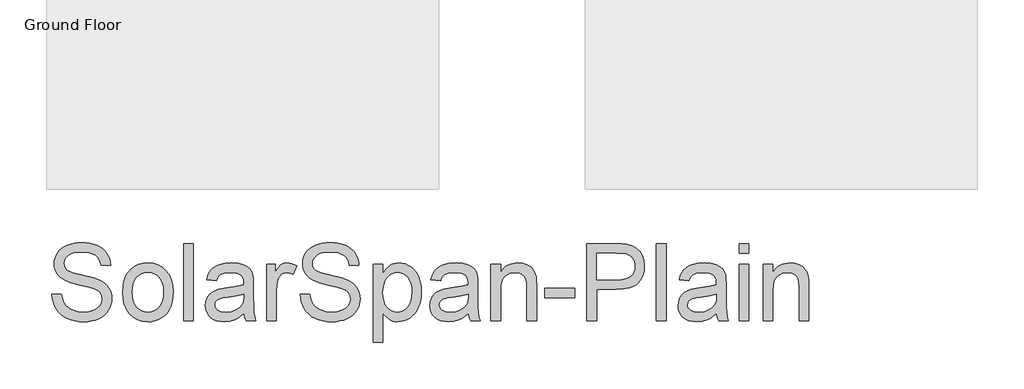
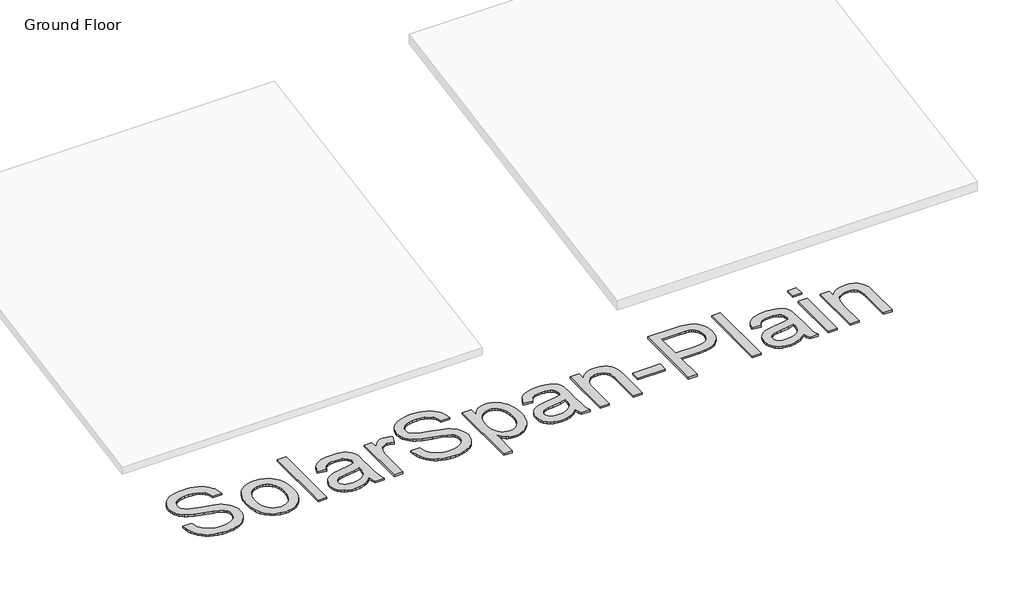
# One storey, part 2 of 2: 1 proxy.
"""IFC4 building model written with IfcOpenShell, lengths in millimetres."""

from ifc_helpers import new_model, si_unit, origin, origin_with_axes, place, context, project, spatial, polyline, outline, extrude, element, save

model = new_model("IFC4")

# Units and contexts
model_context = context("Model", 3, world=origin())
ifc_project = project(units=[si_unit("LENGTHUNIT", "METRE", prefix="MILLI")], contexts=[model_context])

# Site, building, storey
site = spatial("IfcSite", under=ifc_project)
building = spatial("IfcBuilding", under=site)
storey = spatial("IfcBuildingStorey", under=building, Name="Ground Floor", Elevation=0.0)

# Proxy
placement = place(None, origin())
element("IfcBuildingElementProxy", 1, Name="600mm Arial", ObjectType="600mm Arial", at=placement, inside=storey, context=model_context, shape_type="SweptSolid", body=[
    extrude(outline(polyline([(-14694.0272476, 2196.3788361), (-14596.0878536, 2196.3788361), (-14584.8496907, 2142.0291675), (-14575.823294, 2118.8534454), (-14564.5253536, 2098.3437982), (-14550.3820061, 2080.0877612), (-14532.8193877, 2063.6728701), (-14511.8374985, 2049.0991249), (-14487.4363385, 2036.3665254), (-14460.5125695, 2026.0310022), (-14431.9628536, 2018.6484857), (-14369.9855809, 2012.7424724), (-14315.4207135, 2017.2138266), (-14267.6465657, 2030.6278891), (-14228.9346813, 2051.8608436), (-14213.8289166, 2064.9879743), (-14201.5566036, 2079.7888739), (-14185.2732229, 2111.8535046), (-14179.8454294, 2145.4962603), (-14183.9102968, 2178.2782205), (-14196.1048991, 2206.6127376), (-14206.3627116, 2219.1839379), (-14220.8766794, 2230.7867432), (-14262.6730809, 2251.0871694), (-14314.3925411, 2266.4619326), (-14405.2781945, 2288.4839497), (-14498.8897002, 2313.231819), (-14558.7867172, 2336.7841391), (-14584.9393569, 2352.3860567), (-14607.5412154, 2369.7334762), (-14626.5922925, 2388.8263976), (-14642.0925885, 2409.6648209), (-14654.1018806, 2432.0335472), (-14662.6799464, 2455.7173777), (-14667.8267859, 2480.7163124), (-14669.5423991, 2507.0303512), (-14667.4202992, 2536.195775), (-14661.0539994, 2564.3928039), (-14650.4434999, 2591.6214379), (-14635.5888006, 2617.881677), (-14616.6572783, 2642.1035046), (-14593.8163101, 2663.2169042), (-14567.0658958, 2681.2218758), (-14536.4060354, 2696.1184194), (-14502.8708792, 2707.7929577), (-14467.4945771, 2716.1319137), (-14430.2771292, 2721.1352873), (-14391.2185354, 2722.8030785), (-14348.6091604, 2721.0575766), (-14308.5821718, 2715.8210709), (-14271.1375695, 2707.0935614), (-14236.2753536, 2694.8750482), (-14204.6411207, 2679.2731306), (-14176.8804672, 2660.395408), (-14152.9933934, 2638.2418806), (-14132.9798991, 2612.8125482), (-14116.9954057, 2584.8486514), (-14105.1953347, 2555.0914307), (-14097.579686, 2523.5408862), (-14094.1484597, 2490.1970179), (-14192.0878536, 2490.1970179), (-14198.6394635, 2521.4486751), (-14210.0689142, 2548.6354648), (-14226.3762059, 2571.7573872), (-14247.5613385, 2590.8144421), (-14274.0188432, 2605.7109857), (-14306.1432513, 2616.3513739), (-14343.9345629, 2622.7356069), (-14387.3927779, 2624.8636845), (-14432.2378299, 2622.7595179), (-14470.5551832, 2616.4470179), (-14502.3448375, 2605.9261845), (-14527.606793, 2591.1970179), (-14546.8551358, 2573.4909336), (-14560.6039521, 2554.0393474), (-14568.8532419, 2532.8422593), (-14571.6030051, 2509.8996694), (-14569.6542599, 2490.1611514), (-14563.8080241, 2472.2637792), (-14554.0642977, 2456.2075529), (-14540.4230809, 2441.9924724), (-14518.9510165, 2428.5305879), (-14485.1408839, 2414.9252376), (-14380.5064142, 2387.2841391), (-14272.5244066, 2361.0298777), (-14207.199596, 2338.1231542), (-14177.1733768, 2321.3974203), (-14151.3674464, 2302.5914307), (-14129.7818048, 2281.7051855), (-14112.4164521, 2258.7386845), (-14099.0681448, 2233.8114828), (-14089.5336396, 2207.0431353), (-14083.8129365, 2178.4336419), (-14081.9060354, 2147.9830027), (-14084.0998683, 2117.3470534), (-14090.6813669, 2087.607766), (-14101.6505312, 2058.7651405), (-14117.0073612, 2030.819177), (-14136.4828583, 2004.8518474), (-14159.8080241, 1981.9451239), (-14186.9828583, 1962.0990065), (-14218.0073612, 1945.3134951), (-14251.9788929, 1931.9651879), (-14287.9948138, 1922.4306826), (-14326.055124, 1916.7099795), (-14366.1598233, 1914.8030785), (-14416.2593143, 1916.8594232), (-14462.1146055, 1923.0284573), (-14503.7256969, 1933.3101807), (-14541.0925885, 1947.7045936), (-14574.4424346, 1966.2356069), (-14604.0023896, 1988.9271315), (-14629.7724535, 2015.7791675), (-14651.7526263, 2046.7917148), (-14669.4587106, 2080.9605122), (-14682.4065089, 2117.2812982), (-14690.5960212, 2155.7540728), (-14694.0272476, 2196.3788361)])), origin_with_axes(), (0.0, 0.0, 1.0), 20.0),
    extrude(outline(polyline([(-13971.7242172, 2214.7424724), (-13966.4279341, 2289.2610567), (-13959.8075802, 2322.6557359), (-13950.5390847, 2353.4740065), (-13938.6224476, 2381.7158685), (-13924.057669, 2407.3813218), (-13906.8447487, 2430.4703666), (-13886.9836869, 2450.9830027), (-13849.6586396, 2478.8512556), (-13808.4600127, 2498.7571504), (-13763.3878063, 2510.7006874), (-13714.4420203, 2514.6818664), (-13660.4091723, 2509.8339142), (-13611.5530525, 2495.2900576), (-13567.8736609, 2471.0502968), (-13529.3709976, 2437.1146315), (-13497.9459857, 2394.6307892), (-13475.4995487, 2344.746497), (-13462.0316865, 2287.4617551), (-13457.5423991, 2222.7765633), (-13459.5270108, 2170.351729), (-13465.480846, 2123.832908), (-13475.4039047, 2083.2201003), (-13489.2961869, 2048.5133057), (-13506.984338, 2018.5349085), (-13528.2950032, 1992.1072925), (-13553.2281827, 1969.2304577), (-13581.7838763, 1949.9044042), (-13612.8502234, 1934.5475742), (-13645.3153631, 1923.5784099), (-13679.1792954, 1916.9969113), (-13714.4420203, 1914.8030785), (-13769.2639308, 1919.6330974), (-13818.5743593, 1934.1231542), (-13862.3733058, 1958.2732489), (-13900.6607703, 1992.0833815), (-13931.7510283, 2034.9796883), (-13953.9583555, 2086.3883057), (-13967.2827518, 2146.3092338), (-13971.7242172, 2214.7424724)]), holes=[polyline([(-13873.7848233, 2214.9337603), (-13870.9513716, 2167.4286111), (-13862.4510165, 2126.2957395), (-13848.283758, 2091.5351452), (-13828.449596, 2063.1468285), (-13804.3234123, 2041.0949227), (-13777.2800885, 2025.3435614), (-13747.3196244, 2015.8927447), (-13714.4420203, 2012.7424724), (-13681.731793, 2015.9106779), (-13651.8908839, 2025.4152944), (-13624.919293, 2041.2563218), (-13600.8170203, 2063.4337603), (-13580.9828583, 2092.1030311), (-13566.8155998, 2127.4195557), (-13558.3152447, 2169.3833342), (-13555.481793, 2217.9943664), (-13558.3331779, 2263.9931235), (-13566.8873328, 2304.0500008), (-13581.1442575, 2338.1649985), (-13601.1039521, 2366.3381164), (-13625.295891, 2388.3900221), (-13652.2495487, 2404.1413834), (-13681.9649251, 2413.5922002), (-13714.4420203, 2416.7424724), (-13747.3196244, 2413.6041557), (-13777.2800885, 2404.1892054), (-13804.3234123, 2388.4976216), (-13828.449596, 2366.5294042), (-13848.283758, 2338.2247759), (-13862.4510165, 2303.5239592), (-13870.9513716, 2262.4269539), (-13873.7848233, 2214.9337603)])]), origin_with_axes(), (0.0, 0.0, 1.0), 20.0),
    extrude(outline(polyline([(-13347.3605809, 1927.0455027), (-13347.3605809, 2710.5606542), (-13249.4211869, 2710.5606542), (-13249.4211869, 1927.0455027), (-13347.3605809, 1927.0455027)])), origin_with_axes(), (0.0, 0.0, 1.0), 20.0),
    extrude(outline(polyline([(-12735.2393688, 2000.5000482), (-12782.0331661, 1960.3774156), (-12805.9501287, 1945.5167385), (-12830.2138006, 1934.1231542), (-12880.8811775, 1919.6330974), (-12935.1352021, 1914.8030785), (-12978.7428607, 1917.7082631), (-13016.9825032, 1926.4238171), (-13049.8541297, 1940.9497404), (-13077.35774, 1961.286033), (-13099.074892, 1986.1415018), (-13114.5871434, 2014.2249535), (-13123.8944942, 2045.5363881), (-13126.9969445, 2080.0758057), (-13122.3103915, 2120.676658), (-13108.2507324, 2157.5473967), (-13086.5634691, 2189.1098967), (-13058.9941036, 2213.786033), (-13026.5947191, 2232.4366012), (-12990.4173991, 2245.9223967), (-12905.6768688, 2260.6515633), (-12805.5376642, 2276.1458815), (-12735.8132324, 2294.31823), (-12735.2393688, 2316.1250482), (-12736.9250932, 2339.8686561), (-12741.9822665, 2359.8343285), (-12750.4108886, 2376.0220652), (-12762.2109597, 2388.4318664), (-12782.6070297, 2400.8177565), (-12807.450543, 2409.6648209), (-12836.7414994, 2414.9730595), (-12870.4798991, 2416.7424724), (-12928.8227021, 2412.0320084), (-12951.3946718, 2406.1439284), (-12969.5670203, 2397.9006164), (-12984.4994303, 2386.6564757), (-12997.3515847, 2371.7659099), (-13008.1234833, 2353.2289189), (-13016.8151263, 2331.0455027), (-13114.7545203, 2343.287927), (-13097.7538101, 2396.848533), (-13086.1151382, 2419.3248588), (-13072.3842551, 2438.9318664), (-13055.969364, 2456.064087), (-13036.278668, 2471.116052), (-13013.3121671, 2484.0877612), (-12987.0698612, 2494.9792148), (-12926.8859123, 2509.7562035), (-12857.8548991, 2514.6818664), (-12791.645382, 2510.3300671), (-12739.1607703, 2497.2746694), (-12699.5880904, 2477.6437508), (-12672.1143688, 2453.5653891), (-12653.8941983, 2423.7962129), (-12642.0821718, 2387.0928512), (-12638.4955241, 2353.2348967), (-12637.2999748, 2301.3958815), (-12637.2999748, 2179.5455027), (-12636.0566036, 2073.404641), (-12632.32649, 2009.3949345), (-12624.9619066, 1967.3355122), (-12612.8151263, 1927.0455027), (-12710.7545203, 1927.0455027), (-12726.4401263, 1961.0947451), (-12735.2393688, 2000.5000482)]), holes=[polyline([(-12735.2393688, 2196.3788361), (-12801.0423991, 2180.0715444), (-12893.2431566, 2166.3466391), (-12944.0539994, 2158.8385898), (-12977.5054672, 2150.4697451), (-12999.4318404, 2139.614158), (-13015.6673991, 2124.6458815), (-13025.7100127, 2106.7126429), (-13029.0575506, 2086.9621694), (-13027.234338, 2071.7428275), (-13021.7647002, 2057.8385898), (-13012.6486372, 2045.2494563), (-12999.8861491, 2033.975427), (-12983.5967906, 2024.6860093), (-12963.9001169, 2018.0507111), (-12914.2848233, 2012.7424724), (-12861.6806566, 2018.6006637), (-12837.6740279, 2025.9234028), (-12815.1977021, 2036.1752376), (-12777.51399, 2062.0708342), (-12751.3075506, 2092.8920936), (-12739.6868119, 2124.6458815), (-12735.8132324, 2168.6420936), (-12735.2393688, 2196.3788361)])]), origin_with_axes(), (0.0, 0.0, 1.0), 20.0),
    extrude(outline(polyline([(-12502.6333082, 1927.0455027), (-12502.6333082, 2502.4394421), (-12416.9363385, 2502.4394421), (-12416.9363385, 2417.3163361), (-12385.2781945, 2466.6686088), (-12356.106793, 2495.7443664), (-12326.8397476, 2509.9474914), (-12294.8946718, 2514.6818664), (-12270.6011112, 2512.7928986), (-12246.1162627, 2507.1259951), (-12221.4401263, 2497.6811561), (-12196.5727021, 2484.4583815), (-12229.2829294, 2396.6572451), (-12263.7147476, 2411.7211656), (-12298.1465657, 2416.7424724), (-12327.3897002, 2411.9124535), (-12353.5244066, 2397.4223967), (-12374.6378063, 2374.3722073), (-12388.8170203, 2343.8617906), (-12400.7246907, 2289.1534573), (-12404.6939142, 2229.4716391), (-12404.6939142, 1927.0455027), (-12502.6333082, 1927.0455027)])), origin_with_axes(), (0.0, 0.0, 1.0), 20.0),
    extrude(outline(polyline([(-12159.8454294, 2196.3788361), (-12061.9060354, 2196.3788361), (-12050.6678726, 2142.0291675), (-12041.6414758, 2118.8534454), (-12030.3435354, 2098.3437982), (-12016.2001879, 2080.0877612), (-11998.6375695, 2063.6728701), (-11977.6556803, 2049.0991249), (-11953.2545203, 2036.3665254), (-11926.3307513, 2026.0310022), (-11897.7810354, 2018.6484857), (-11835.8037627, 2012.7424724), (-11781.2388953, 2017.2138266), (-11733.4647476, 2030.6278891), (-11694.7528631, 2051.8608436), (-11679.6470984, 2064.9879743), (-11667.3747854, 2079.7888739), (-11651.0914047, 2111.8535046), (-11645.6636112, 2145.4962603), (-11649.7284786, 2178.2782205), (-11661.9230809, 2206.6127376), (-11672.1808934, 2219.1839379), (-11686.6948612, 2230.7867432), (-11728.4912627, 2251.0871694), (-11780.2107229, 2266.4619326), (-11871.0963763, 2288.4839497), (-11964.707882, 2313.231819), (-12024.6048991, 2336.7841391), (-12050.7575387, 2352.3860567), (-12073.3593972, 2369.7334762), (-12092.4104743, 2388.8263976), (-12107.9107703, 2409.6648209), (-12119.9200624, 2432.0335472), (-12128.4981282, 2455.7173777), (-12133.6449677, 2480.7163124), (-12135.3605809, 2507.0303512), (-12133.238481, 2536.195775), (-12126.8721813, 2564.3928039), (-12116.2616817, 2591.6214379), (-12101.4069824, 2617.881677), (-12082.4754601, 2642.1035046), (-12059.6344919, 2663.2169042), (-12032.8840776, 2681.2218758), (-12002.2242172, 2696.1184194), (-11968.689061, 2707.7929577), (-11933.3127589, 2716.1319137), (-11896.095311, 2721.1352873), (-11857.0367172, 2722.8030785), (-11814.4273422, 2721.0575766), (-11774.4003536, 2715.8210709), (-11736.9557513, 2707.0935614), (-11702.0935354, 2694.8750482), (-11670.4593025, 2679.2731306), (-11642.6986491, 2660.395408), (-11618.8115752, 2638.2418806), (-11598.7980809, 2612.8125482), (-11582.8135875, 2584.8486514), (-11571.0135165, 2555.0914307), (-11563.3978678, 2523.5408862), (-11559.9666415, 2490.1970179), (-11657.9060354, 2490.1970179), (-11664.4576453, 2521.4486751), (-11675.887096, 2548.6354648), (-11692.1943877, 2571.7573872), (-11713.3795203, 2590.8144421), (-11739.837025, 2605.7109857), (-11771.9614332, 2616.3513739), (-11809.7527447, 2622.7356069), (-11853.2109597, 2624.8636845), (-11898.0560118, 2622.7595179), (-11936.373365, 2616.4470179), (-11968.1630193, 2605.9261845), (-11993.4249748, 2591.1970179), (-12012.6733176, 2573.4909336), (-12026.4221339, 2554.0393474), (-12034.6714237, 2532.8422593), (-12037.4211869, 2509.8996694), (-12035.4724417, 2490.1611514), (-12029.6262059, 2472.2637792), (-12019.8824796, 2456.2075529), (-12006.2412627, 2441.9924724), (-11984.7691983, 2428.5305879), (-11950.9590657, 2414.9252376), (-11846.324596, 2387.2841391), (-11738.3425885, 2361.0298777), (-11673.0177779, 2338.1231542), (-11642.9915586, 2321.3974203), (-11617.1856282, 2302.5914307), (-11595.5999867, 2281.7051855), (-11578.2346339, 2258.7386845), (-11564.8863266, 2233.8114828), (-11555.3518214, 2207.0431353), (-11549.6311183, 2178.4336419), (-11547.7242172, 2147.9830027), (-11549.9180501, 2117.3470534), (-11556.4995487, 2087.607766), (-11567.468713, 2058.7651405), (-11582.825543, 2030.819177), (-11602.3010402, 2004.8518474), (-11625.6262059, 1981.9451239), (-11652.8010402, 1962.0990065), (-11683.825543, 1945.3134951), (-11717.7970747, 1931.9651879), (-11753.8129957, 1922.4306826), (-11791.8733058, 1916.7099795), (-11831.9780051, 1914.8030785), (-11882.0774961, 1916.8594232), (-11927.9327873, 1923.0284573), (-11969.5438787, 1933.3101807), (-12006.9107703, 1947.7045936), (-12040.2606164, 1966.2356069), (-12069.8205714, 1988.9271315), (-12095.5906353, 2015.7791675), (-12117.5708082, 2046.7917148), (-12135.2768924, 2080.9605122), (-12148.2246907, 2117.2812982), (-12156.414203, 2155.7540728), (-12159.8454294, 2196.3788361)])), origin_with_axes(), (0.0, 0.0, 1.0), 20.0),
    extrude(outline(polyline([(-11413.0575506, 1706.6818664), (-11413.0575506, 2502.4394421), (-11315.1181566, 2502.4394421), (-11315.1181566, 2406.412927), (-11283.1730809, 2453.7805879), (-11247.4022476, 2487.6146315), (-11227.5561301, 2499.4565468), (-11205.70149, 2507.9150576), (-11181.8383271, 2512.9901642), (-11155.9666415, 2514.6818664), (-11121.8097996, 2512.3146789), (-11089.7332135, 2505.2131164), (-11059.736883, 2493.3771789), (-11031.8208082, 2476.8068664), (-11006.5947191, 2455.9325766), (-10984.668346, 2431.1847073), (-10966.0416888, 2402.5632584), (-10950.7147476, 2370.06823), (-10938.7472996, 2334.8114828), (-10930.1991226, 2297.9048777), (-10925.0702163, 2259.3484146), (-10923.3605809, 2219.1420936), (-10925.2913929, 2176.1561206), (-10931.083829, 2135.3819137), (-10940.7378891, 2096.8194729), (-10954.2535733, 2060.4687982), (-10971.4455714, 2027.2803512), (-10992.1285733, 1998.2045936), (-11016.302579, 1973.2415254), (-11043.9675885, 1952.3911467), (-11073.7666533, 1935.9463668), (-11104.3428252, 1924.2000955), (-11135.6961041, 1917.1523327), (-11167.82649, 1914.8030785), (-11190.9424346, 1916.3752257), (-11212.8508744, 1921.0916675), (-11233.5518096, 1928.9524038), (-11253.04524, 1939.9574345), (-11287.4531472, 1968.4354175), (-11315.1181566, 2003.5606542), (-11315.1181566, 1706.6818664), (-11413.0575506, 1706.6818664)]), holes=[polyline([(-11315.1181566, 2210.1515633), (-11312.4700151, 2162.9512792), (-11304.5255904, 2122.350427), (-11291.2848825, 2088.3490065), (-11272.7478915, 2060.9470179), (-11250.4329649, 2039.8575292), (-11225.8584502, 2024.7936088), (-11199.0243475, 2015.7552565), (-11169.9306566, 2012.7424724), (-11140.4185236, 2015.8628559), (-11113.0942457, 2025.2240065), (-11087.9578228, 2040.8259241), (-11065.0092551, 2062.6686088), (-11045.886445, 2091.0629033), (-11032.2272949, 2126.3196504), (-11024.0318048, 2168.4388503), (-11021.2999748, 2217.4205027), (-11023.9660496, 2264.2143001), (-11031.9642741, 2304.7434194), (-11045.2946481, 2339.0078607), (-11063.9571718, 2367.0076239), (-11086.3258981, 2388.7666201), (-11110.7748801, 2404.3087603), (-11137.3041178, 2413.6340444), (-11165.9136112, 2416.7424724), (-11194.4334384, 2413.4367788), (-11221.2675411, 2403.5196978), (-11246.4159194, 2386.9912295), (-11269.8785733, 2363.8513739), (-11289.670891, 2334.4109738), (-11303.8082608, 2298.980872), (-11312.2906827, 2257.5610685), (-11315.1181566, 2210.1515633)])]), origin_with_axes(), (0.0, 0.0, 1.0), 20.0),
    extrude(outline(polyline([(-10445.9060354, 2000.5000482), (-10492.6998328, 1960.3774156), (-10516.6167954, 1945.5167385), (-10540.8804672, 1934.1231542), (-10591.5478441, 1919.6330974), (-10645.8018688, 1914.8030785), (-10689.4095274, 1917.7082631), (-10727.6491699, 1926.4238171), (-10760.5207963, 1940.9497404), (-10788.0244066, 1961.286033), (-10809.7415586, 1986.1415018), (-10825.2538101, 2014.2249535), (-10834.5611609, 2045.5363881), (-10837.6636112, 2080.0758057), (-10832.9770582, 2120.676658), (-10818.9173991, 2157.5473967), (-10797.2301358, 2189.1098967), (-10769.6607703, 2213.786033), (-10737.2613858, 2232.4366012), (-10701.0840657, 2245.9223967), (-10616.3435354, 2260.6515633), (-10516.2043309, 2276.1458815), (-10446.4798991, 2294.31823), (-10445.9060354, 2316.1250482), (-10447.5917599, 2339.8686561), (-10452.6489332, 2359.8343285), (-10461.0775553, 2376.0220652), (-10472.8776263, 2388.4318664), (-10493.2736964, 2400.8177565), (-10518.1172097, 2409.6648209), (-10547.4081661, 2414.9730595), (-10581.1465657, 2416.7424724), (-10639.4893688, 2412.0320084), (-10662.0613385, 2406.1439284), (-10680.2336869, 2397.9006164), (-10695.166097, 2386.6564757), (-10708.0182513, 2371.7659099), (-10718.79015, 2353.2289189), (-10727.481793, 2331.0455027), (-10825.4211869, 2343.287927), (-10808.4204767, 2396.848533), (-10796.7818048, 2419.3248588), (-10783.0509218, 2438.9318664), (-10766.6360307, 2456.064087), (-10746.9453347, 2471.116052), (-10723.9788337, 2484.0877612), (-10697.7365279, 2494.9792148), (-10637.552579, 2509.7562035), (-10568.5215657, 2514.6818664), (-10502.3120487, 2510.3300671), (-10449.8274369, 2497.2746694), (-10410.254757, 2477.6437508), (-10382.7810354, 2453.5653891), (-10364.560865, 2423.7962129), (-10352.7488385, 2387.0928512), (-10349.1621907, 2353.2348967), (-10347.9666415, 2301.3958815), (-10347.9666415, 2179.5455027), (-10346.7232703, 2073.404641), (-10342.9931566, 2009.3949345), (-10335.6285733, 1967.3355122), (-10323.481793, 1927.0455027), (-10421.4211869, 1927.0455027), (-10437.106793, 1961.0947451), (-10445.9060354, 2000.5000482)]), holes=[polyline([(-10445.9060354, 2196.3788361), (-10511.7090657, 2180.0715444), (-10603.9098233, 2166.3466391), (-10654.7206661, 2158.8385898), (-10688.1721339, 2150.4697451), (-10710.098507, 2139.614158), (-10726.3340657, 2124.6458815), (-10736.3766794, 2106.7126429), (-10739.7242172, 2086.9621694), (-10737.9010047, 2071.7428275), (-10732.4313669, 2057.8385898), (-10723.3153039, 2045.2494563), (-10710.5528157, 2033.975427), (-10694.2634573, 2024.6860093), (-10674.5667835, 2018.0507111), (-10624.95149, 2012.7424724), (-10572.3473233, 2018.6006637), (-10548.3406945, 2025.9234028), (-10525.8643688, 2036.1752376), (-10488.1806566, 2062.0708342), (-10461.9742172, 2092.8920936), (-10450.3534786, 2124.6458815), (-10446.4798991, 2168.6420936), (-10445.9060354, 2196.3788361)])]), origin_with_axes(), (0.0, 0.0, 1.0), 20.0),
    extrude(outline(polyline([(-10213.2999748, 1927.0455027), (-10213.2999748, 2502.4394421), (-10115.3605809, 2502.4394421), (-10115.3605809, 2422.098533), (-10081.3352494, 2462.6037414), (-10061.7581306, 2478.5165018), (-10040.4713763, 2491.536033), (-10017.4749867, 2501.6623351), (-9992.7689616, 2508.895408), (-9938.2280051, 2514.6818664), (-9889.9517267, 2510.0192243), (-9845.7403157, 2496.0312982), (-9808.8695771, 2474.4635898), (-9782.6153157, 2447.0616012), (-9764.801632, 2413.8970652), (-9753.2526263, 2375.0417148), (-9749.3790468, 2337.8840444), (-9748.0878536, 2280.3542148), (-9748.0878536, 1927.0455027), (-9846.0272476, 1927.0455027), (-9846.0272476, 2267.1553512), (-9848.8487438, 2317.7988171), (-9857.3132324, 2353.8087603), (-9872.9271055, 2379.6087129), (-9897.1967551, 2399.6222073), (-9928.3049464, 2412.4624061), (-9964.4344445, 2416.7424724), (-9994.1737319, 2414.3394184), (-10021.7968972, 2407.1302565), (-10047.3039403, 2395.1149866), (-10070.6948612, 2378.2936088), (-10090.2361136, 2354.7532442), (-10104.194151, 2322.5810141), (-10112.5689734, 2281.7769184), (-10115.3605809, 2232.3409573), (-10115.3605809, 1927.0455027), (-10213.2999748, 1927.0455027)])), origin_with_axes(), (0.0, 0.0, 1.0), 20.0),
    extrude(outline(polyline([(-9662.3908839, 2159.6515633), (-9662.3908839, 2257.5909573), (-9356.3302779, 2257.5909573), (-9356.3302779, 2159.6515633), (-9662.3908839, 2159.6515633)])), origin_with_axes(), (0.0, 0.0, 1.0), 20.0),
    extrude(outline(polyline([(-9233.9060354, 1927.0455027), (-9233.9060354, 2710.5606542), (-8943.5310354, 2710.5606542), (-8875.9107703, 2708.6955974), (-8826.4628536, 2703.100427), (-8774.2651737, 2689.1603228), (-8731.2971339, 2666.4687982), (-8713.0590302, 2651.5842101), (-8696.6979388, 2633.9976807), (-8669.606793, 2590.7187982), (-8652.1039521, 2539.6688455), (-8646.2696718, 2483.8845179), (-8650.2090065, 2435.7875718), (-8662.0270108, 2391.5402944), (-8681.7236846, 2351.1426855), (-8709.2990279, 2314.5947451), (-8726.6419641, 2298.3651642), (-8747.1560946, 2284.2995273), (-8770.8414195, 2272.3978346), (-8797.6979388, 2262.6600861), (-8860.9245605, 2249.6764213), (-8936.8359597, 2245.348533), (-9135.9666415, 2245.348533), (-9135.9666415, 1927.0455027), (-9233.9060354, 1927.0455027)]), holes=[polyline([(-9135.9666415, 2343.287927), (-8931.0973233, 2343.287927), (-8883.9926832, 2345.5355595), (-8844.2526263, 2352.2784573), (-8811.8771529, 2363.5166201), (-8786.8662627, 2379.2500482), (-8768.203739, 2399.0602991), (-8754.873365, 2422.5289307), (-8746.8751405, 2449.6559431), (-8744.2090657, 2480.4413361), (-8745.781213, 2503.3002376), (-8750.4976547, 2524.4375482), (-8758.358391, 2543.8532679), (-8769.3634218, 2561.5473967), (-8782.9269279, 2576.9460709), (-8798.4630904, 2589.475427), (-8815.971909, 2599.1354648), (-8835.4533839, 2605.9261845), (-8873.23274, 2610.9474914), (-8933.3927779, 2612.6212603), (-9135.9666415, 2612.6212603), (-9135.9666415, 2343.287927)])]), origin_with_axes(), (0.0, 0.0, 1.0), 20.0),
    extrude(outline(polyline([(-8523.8454294, 1927.0455027), (-8523.8454294, 2710.5606542), (-8425.9060354, 2710.5606542), (-8425.9060354, 1927.0455027), (-8523.8454294, 1927.0455027)])), origin_with_axes(), (0.0, 0.0, 1.0), 20.0),
    extrude(outline(polyline([(-7911.7242172, 2000.5000482), (-7958.5180146, 1960.3774156), (-7982.4349772, 1945.5167385), (-8006.6986491, 1934.1231542), (-8057.366026, 1919.6330974), (-8111.6200506, 1914.8030785), (-8155.2277092, 1917.7082631), (-8193.4673517, 1926.4238171), (-8226.3389781, 1940.9497404), (-8253.8425885, 1961.286033), (-8275.5597404, 1986.1415018), (-8291.0719919, 2014.2249535), (-8300.3793427, 2045.5363881), (-8303.481793, 2080.0758057), (-8298.79524, 2120.676658), (-8284.7355809, 2157.5473967), (-8263.0483176, 2189.1098967), (-8235.4789521, 2213.786033), (-8203.0795676, 2232.4366012), (-8166.9022476, 2245.9223967), (-8082.1617172, 2260.6515633), (-7982.0225127, 2276.1458815), (-7912.2980809, 2294.31823), (-7911.7242172, 2316.1250482), (-7913.4099417, 2339.8686561), (-7918.467115, 2359.8343285), (-7926.8957371, 2376.0220652), (-7938.6958082, 2388.4318664), (-7959.0918782, 2400.8177565), (-7983.9353915, 2409.6648209), (-8013.2263479, 2414.9730595), (-8046.9647476, 2416.7424724), (-8105.3075506, 2412.0320084), (-8127.8795203, 2406.1439284), (-8146.0518688, 2397.9006164), (-8160.9842788, 2386.6564757), (-8173.8364332, 2371.7659099), (-8184.6083318, 2353.2289189), (-8193.2999748, 2331.0455027), (-8291.2393688, 2343.287927), (-8274.2386585, 2396.848533), (-8262.5999867, 2419.3248588), (-8248.8691036, 2438.9318664), (-8232.4542125, 2456.064087), (-8212.7635165, 2471.116052), (-8189.7970155, 2484.0877612), (-8163.5547097, 2494.9792148), (-8103.3707608, 2509.7562035), (-8034.3397476, 2514.6818664), (-7968.1302305, 2510.3300671), (-7915.6456188, 2497.2746694), (-7876.0729388, 2477.6437508), (-7848.5992172, 2453.5653891), (-7830.3790468, 2423.7962129), (-7818.5670203, 2387.0928512), (-7814.9803726, 2353.2348967), (-7813.7848233, 2301.3958815), (-7813.7848233, 2179.5455027), (-7812.5414521, 2073.404641), (-7808.8113385, 2009.3949345), (-7801.4467551, 1967.3355122), (-7789.2999748, 1927.0455027), (-7887.2393688, 1927.0455027), (-7902.9249748, 1961.0947451), (-7911.7242172, 2000.5000482)]), holes=[polyline([(-7911.7242172, 2196.3788361), (-7977.5272476, 2180.0715444), (-8069.7280051, 2166.3466391), (-8120.5388479, 2158.8385898), (-8153.9903157, 2150.4697451), (-8175.9166888, 2139.614158), (-8192.1522476, 2124.6458815), (-8202.1948612, 2106.7126429), (-8205.5423991, 2086.9621694), (-8203.7191865, 2071.7428275), (-8198.2495487, 2057.8385898), (-8189.1334857, 2045.2494563), (-8176.3709976, 2033.975427), (-8160.0816391, 2024.6860093), (-8140.3849654, 2018.0507111), (-8090.7696718, 2012.7424724), (-8038.1655051, 2018.6006637), (-8014.1588763, 2025.9234028), (-7991.6825506, 2036.1752376), (-7953.9988385, 2062.0708342), (-7927.7923991, 2092.8920936), (-7916.1716604, 2124.6458815), (-7912.2980809, 2168.6420936), (-7911.7242172, 2196.3788361)])]), origin_with_axes(), (0.0, 0.0, 1.0), 20.0),
    extrude(outline(polyline([(-7679.1181566, 2612.6212603), (-7679.1181566, 2710.5606542), (-7581.1787627, 2710.5606542), (-7581.1787627, 2612.6212603), (-7679.1181566, 2612.6212603)])), origin_with_axes(), (0.0, 0.0, 1.0), 20.0),
    extrude(outline(polyline([(-7679.1181566, 1927.0455027), (-7679.1181566, 2502.4394421), (-7581.1787627, 2502.4394421), (-7581.1787627, 1927.0455027), (-7679.1181566, 1927.0455027)])), origin_with_axes(), (0.0, 0.0, 1.0), 20.0),
    extrude(outline(polyline([(-7434.2696718, 1927.0455027), (-7434.2696718, 2502.4394421), (-7336.3302779, 2502.4394421), (-7336.3302779, 2422.098533), (-7302.3049464, 2462.6037414), (-7282.7278276, 2478.5165018), (-7261.4410733, 2491.536033), (-7238.4446836, 2501.6623351), (-7213.7386585, 2508.895408), (-7159.1977021, 2514.6818664), (-7110.9214237, 2510.0192243), (-7066.7100127, 2496.0312982), (-7029.8392741, 2474.4635898), (-7003.5850127, 2447.0616012), (-6985.771329, 2413.8970652), (-6974.2223233, 2375.0417148), (-6970.3487438, 2337.8840444), (-6969.0575506, 2280.3542148), (-6969.0575506, 1927.0455027), (-7066.9969445, 1927.0455027), (-7066.9969445, 2267.1553512), (-7069.8184407, 2317.7988171), (-7078.2829294, 2353.8087603), (-7093.8968025, 2379.6087129), (-7118.1664521, 2399.6222073), (-7149.2746434, 2412.4624061), (-7185.4041415, 2416.7424724), (-7215.1434289, 2414.3394184), (-7242.7665941, 2407.1302565), (-7268.2736372, 2395.1149866), (-7291.6645582, 2378.2936088), (-7311.2058105, 2354.7532442), (-7325.1638479, 2322.5810141), (-7333.5386704, 2281.7769184), (-7336.3302779, 2232.3409573), (-7336.3302779, 1927.0455027), (-7434.2696718, 1927.0455027)])), origin_with_axes(), (0.0, 0.0, 1.0), 20.0),
])

save(model, "model.ifc")
